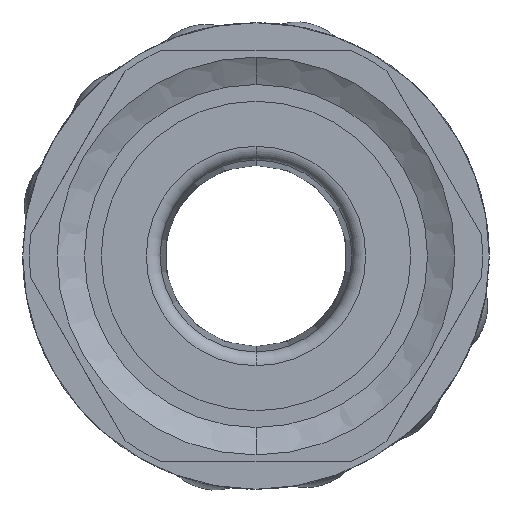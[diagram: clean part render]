
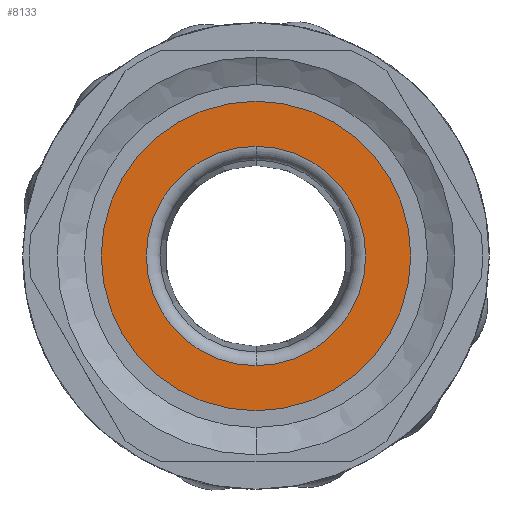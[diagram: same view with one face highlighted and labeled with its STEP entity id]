
A CAD part, front view. The second image highlights one B-rep face of the part: STEP entity #8133.
In plain terms, the highlighted planar face has unit normal (0, -1, 0).
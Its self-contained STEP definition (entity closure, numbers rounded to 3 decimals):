
#414 = CARTESIAN_POINT ( 'NONE',  ( 0., 0., 3.995 ) ) ;
#840 = CIRCLE ( 'NONE', #9884, 3.995 ) ;
#874 = CARTESIAN_POINT ( 'NONE',  ( 0., 0., -5.64 ) ) ;
#1250 = DIRECTION ( 'NONE',  ( 0., 0., -1. ) ) ;
#1577 = DIRECTION ( 'NONE',  ( 0., -1., 0. ) ) ;
#2026 = CARTESIAN_POINT ( 'NONE',  ( 0., 0., 5.64 ) ) ;
#2645 = CARTESIAN_POINT ( 'NONE',  ( 0., 0., 0. ) ) ;
#2783 = ORIENTED_EDGE ( 'NONE', *, *, #13058, .T. ) ;
#3078 = CARTESIAN_POINT ( 'NONE',  ( 0., 0., 0. ) ) ;
#3216 = PLANE ( 'NONE',  #17378 ) ;
#3402 = CARTESIAN_POINT ( 'NONE',  ( 0., 0., 0. ) ) ;
#4457 = CIRCLE ( 'NONE', #13125, 5.64 ) ;
#5913 = VERTEX_POINT ( 'NONE', #17877 ) ;
#6038 = EDGE_CURVE ( 'NONE', #11354, #5913, #14106, .T. ) ;
#6134 = DIRECTION ( 'NONE',  ( 0., -1., 0. ) ) ;
#6262 = EDGE_CURVE ( 'NONE', #5913, #11354, #840, .T. ) ;
#7097 = FACE_OUTER_BOUND ( 'NONE', #12707, .T. ) ;
#7238 = CARTESIAN_POINT ( 'NONE',  ( 0., 0., 0. ) ) ;
#7614 = AXIS2_PLACEMENT_3D ( 'NONE', #2645, #9443, #1250 ) ;
#8133 = ADVANCED_FACE ( 'NONE', ( #7097, #13440 ), #3216, .T. ) ;
#8645 = DIRECTION ( 'NONE',  ( 0., 0., -1. ) ) ;
#8801 = DIRECTION ( 'NONE',  ( 0., 0., -1. ) ) ;
#9084 = ORIENTED_EDGE ( 'NONE', *, *, #6262, .F. ) ;
#9362 = ORIENTED_EDGE ( 'NONE', *, *, #6038, .F. ) ;
#9443 = DIRECTION ( 'NONE',  ( 0., -1., 0. ) ) ;
#9470 = EDGE_LOOP ( 'NONE', ( #9084, #9362 ) ) ;
#9539 = AXIS2_PLACEMENT_3D ( 'NONE', #3078, #1577, #14199 ) ;
#9884 = AXIS2_PLACEMENT_3D ( 'NONE', #7238, #16963, #8645 ) ;
#10174 = EDGE_CURVE ( 'NONE', #15677, #15471, #4457, .T. ) ;
#11354 = VERTEX_POINT ( 'NONE', #414 ) ;
#12707 = EDGE_LOOP ( 'NONE', ( #14375, #2783 ) ) ;
#12942 = CARTESIAN_POINT ( 'NONE',  ( 3.995, 0., 0. ) ) ;
#13058 = EDGE_CURVE ( 'NONE', #15471, #15677, #14599, .T. ) ;
#13125 = AXIS2_PLACEMENT_3D ( 'NONE', #3402, #6134, #17400 ) ;
#13440 = FACE_BOUND ( 'NONE', #9470, .T. ) ;
#14106 = CIRCLE ( 'NONE', #9539, 3.995 ) ;
#14199 = DIRECTION ( 'NONE',  ( 0., 0., -1. ) ) ;
#14375 = ORIENTED_EDGE ( 'NONE', *, *, #10174, .T. ) ;
#14599 = CIRCLE ( 'NONE', #7614, 5.64 ) ;
#15471 = VERTEX_POINT ( 'NONE', #2026 ) ;
#15677 = VERTEX_POINT ( 'NONE', #874 ) ;
#15781 = DIRECTION ( 'NONE',  ( 0., -1., 0. ) ) ;
#16963 = DIRECTION ( 'NONE',  ( 0., -1., 0. ) ) ;
#17378 = AXIS2_PLACEMENT_3D ( 'NONE', #12942, #15781, #8801 ) ;
#17400 = DIRECTION ( 'NONE',  ( 0., 0., -1. ) ) ;
#17877 = CARTESIAN_POINT ( 'NONE',  ( 0., 0., -3.995 ) ) ;
